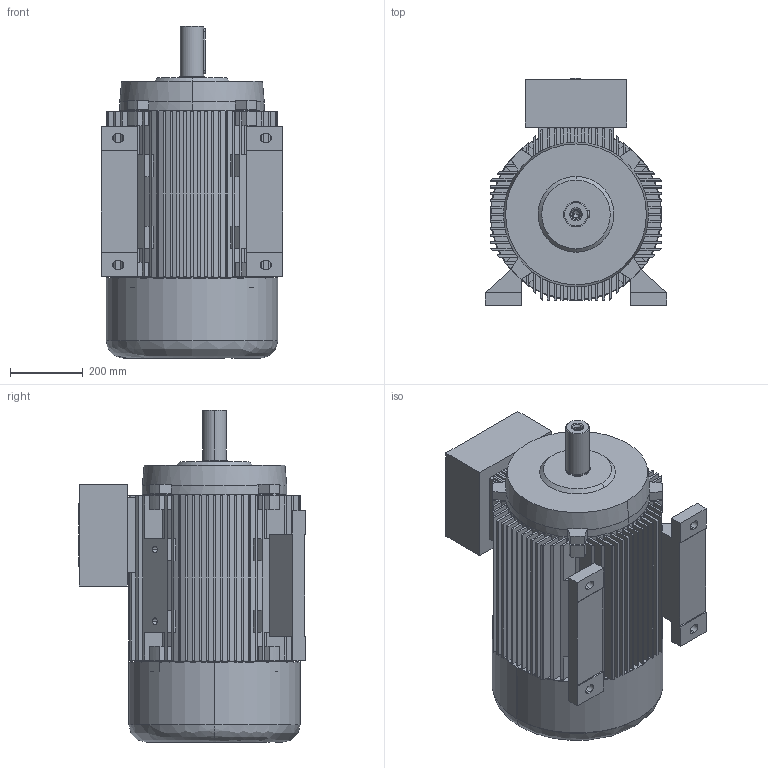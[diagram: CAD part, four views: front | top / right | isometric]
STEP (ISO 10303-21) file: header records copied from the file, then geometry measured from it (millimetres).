
FILE_DESCRIPTION (( 'STEP AP203' ), '1' );
FILE_NAME ('20.18375_A 7AZ 250M - 4, -6 B3 STANDK.STEP', '2018-04-03T08:23:17', ( '' ), ( '' ), 'SwSTEP 2.0', 'SolidWorks 2017', '' );
FILE_SCHEMA (( 'CONFIG_CONTROL_DESIGN' ));
Length unit declared in the file: millimetre
Products named in the file (1): 20.18375_A  7AZ 250M - 4, -6 B3 STANDK
Bounding box: 500 x 624 x 913 mm (x, y, z)
Volume: 47889118.9 mm3; surface area: 6466463.2 mm2
Topology: 13 solids, 16 shells, 836 faces, 2233 edges, 1466 vertices
Faces by surface type: plane 666, cylinder 119, cone 38, bspline 13
Entity records: 26644 total; most frequent: CARTESIAN_POINT 5435, ORIENTED_EDGE 4430, DIRECTION 4314, EDGE_CURVE 2215, VECTOR 1680, LINE 1680, VERTEX_POINT 1466, AXIS2_PLACEMENT_3D 1317
